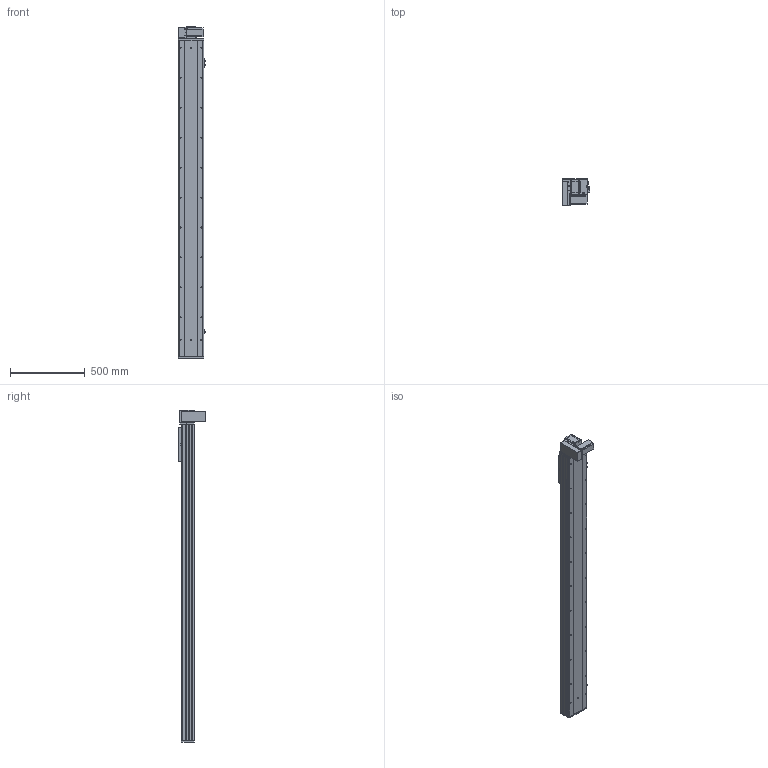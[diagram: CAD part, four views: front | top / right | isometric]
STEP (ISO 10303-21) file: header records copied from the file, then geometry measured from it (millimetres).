
FILE_DESCRIPTION (( 'STEP AP203' ), '1' );
FILE_NAME ('Y170CB-D105-S1800-BM-P400W.STEP', '2020-02-20T07:11:40', ( '微软用户' ), ( '微软中国' ), 'SwSTEP 2.0', 'SolidWorks 2017', '' );
FILE_SCHEMA (( 'CONFIG_CONTROL_DESIGN' ));
Length unit declared in the file: millimetre
Products named in the file (18): 70CB-掛极-; Y170CB-陔俋离換覜結え---; --70CB --喘謫眊楊擘啣-; Y1埴倛裔; 70CB-耜裔啣-; 17B-耜蚾蟀諉啣----; 70C--詩湍揤踡え-; 00B-俋欶BM--163; 70CB--耜裔; 70B喘謫眊----; 70C-雄赽釱-奻-; B-源倛裔啣; Y170CB-D105-S1800-BM-P400W; 0C--雄赽釱俋欶-170; 0B-萇儂楊擘啣; 70CB-詩湍--; san松下电机400不带刹车----; Y100-135俋离換覜ん--
Assembly tree (21 placements, depth 2):
  Y170CB-D105-S1800-BM-P400W
    B-源倛裔啣
    0B-萇儂楊擘啣
    san松下电机400不带刹车----
    70CB-掛极-
    --70CB --喘謫眊楊擘啣-
    70CB-耜裔啣-  x2
    70C--詩湍揤踡え-  x2
    70CB--耜裔
    70C-雄赽釱-奻-
    0C--雄赽釱俋欶-170
    70CB-詩湍--
    Y100-135俋离換覜ん--  x3
    Y170CB-陔俋离換覜結え---
    Y1埴倛裔
    17B-耜蚾蟀諉啣----
    00B-俋欶BM--163
    70B喘謫眊----
Bounding box: 183.5 x 184 x 2216 mm (x, y, z)
Volume: 9689438.2 mm3; surface area: 3490668.5 mm2
Topology: 21 solids, 21 shells, 1039 faces, 2789 edges, 1850 vertices
Faces by surface type: cylinder 553, plane 462, cone 24
Entity records: 33204 total; most frequent: CARTESIAN_POINT 6096, DIRECTION 5402, ORIENTED_EDGE 5060, EDGE_CURVE 2530, AXIS2_PLACEMENT_3D 1988, VERTEX_POINT 1680, VECTOR 1426, LINE 1426
